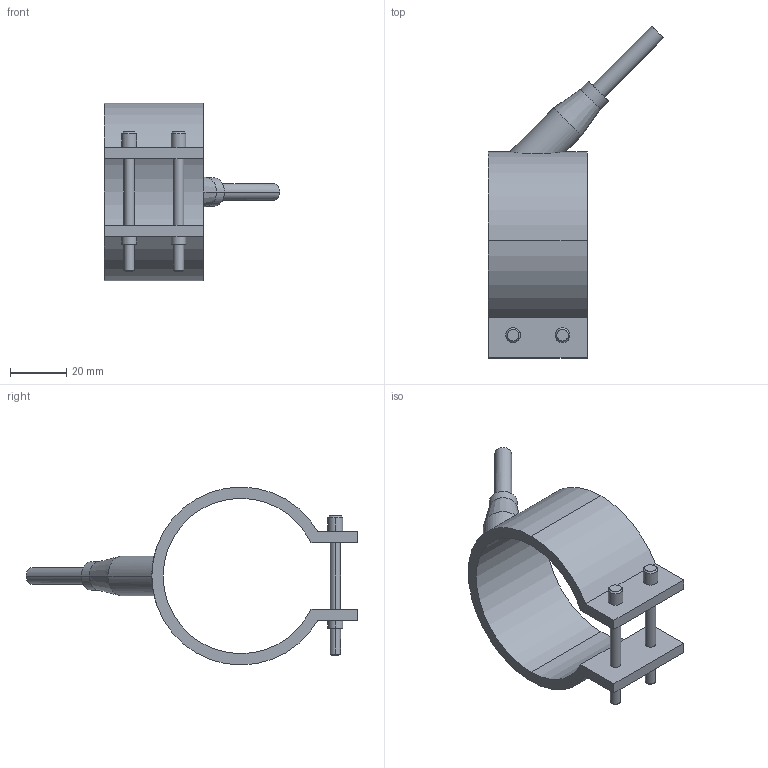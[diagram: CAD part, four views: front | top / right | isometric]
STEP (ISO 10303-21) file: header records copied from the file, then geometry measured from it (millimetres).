
FILE_DESCRIPTION(('CATIA V5 STEP Exchange'),'2;1');
FILE_NAME('C:\Users\Utente\Desktop\IO LAVORO\3D X SITO CF\X SITO\PLASTICA\RF1\29055035.stp','2021-03-29T13:11:05+00:00',('none'),('none'),'CATIA Version 5 Release 20 GA (IN-10)','CATIA V5 STEP AP203','none');
FILE_SCHEMA(('CONFIG_CONTROL_DESIGN'));
Length unit declared in the file: millimetre
Products named in the file (1): 29055035
Bounding box: 62.05 x 117.55 x 63 mm (x, y, z)
Volume: 32107.7 mm3; surface area: 17549.2 mm2
Topology: 1 solids, 1 shells, 54 faces, 124 edges, 80 vertices
Faces by surface type: cylinder 28, plane 16, cone 10
Entity records: 1711 total; most frequent: CARTESIAN_POINT 472, ORIENTED_EDGE 248, DIRECTION 214, EDGE_CURVE 124, AXIS2_PLACEMENT_3D 107, VERTEX_POINT 80, EDGE_LOOP 66, VECTOR 56
